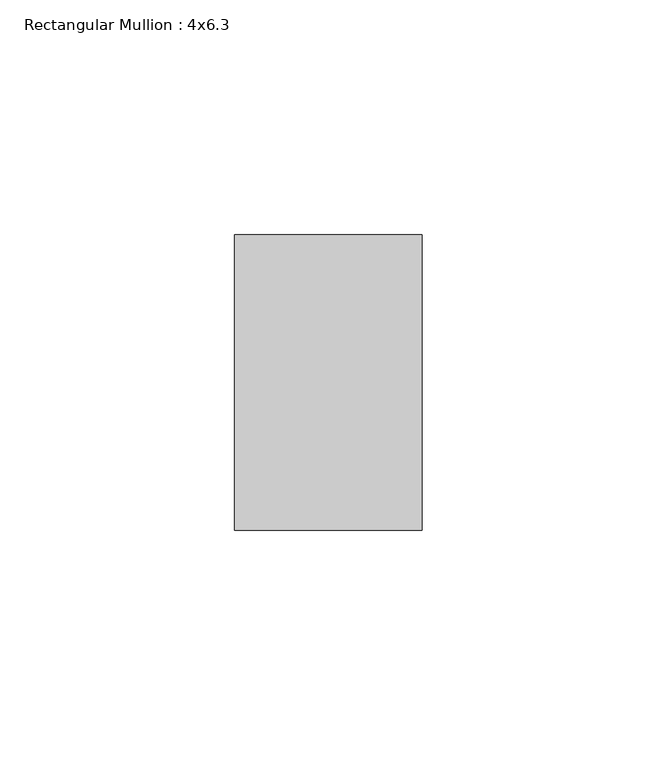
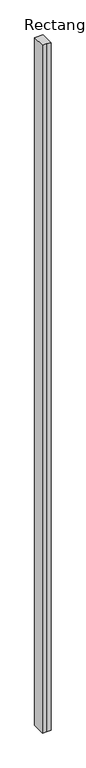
"""IFC4 building model written with IfcOpenShell, lengths in millimetres: member geometry, Rectangular Mullion : 4x6.3."""

from ifc_helpers import new_model, si_unit, frame, origin, place, context, project, spatial, polyline, outline, extrude, source, transform, mapped, element, save


def rectangular_mullion_4x6_3_23d2c0b6(model_context):
    return source(origin(), model_context, "Body", "SweptSolid", [
        extrude(outline(polyline([(-20.0, 20.0), (-20.0, 83.0), (20.0, 83.0), (20.0, 20.0), (0.0, 20.0), (-20.0, 20.0)])), frame((0.0, 0.0, -3426.2175229), z_axis=(0.0, 0.0, 1.0), x_axis=(1.0, 0.0, 0.0)), (0.0, 0.0, 1.0), 3426.2175229),
    ])


if __name__ == "__main__":
    model = new_model("IFC4")
    model_context = context("Model", 3, world=origin())
    ifc_project = project(units=[si_unit("LENGTHUNIT", "METRE", prefix="MILLI")], contexts=[model_context])
    site = spatial("IfcSite", under=ifc_project)
    building = spatial("IfcBuilding", under=site)
    placement = place(None, origin())
    rectangular_mullion_4x6_3_shape = rectangular_mullion_4x6_3_23d2c0b6(model_context)
    element("IfcMember", 1, ObjectType="Rectangular Mullion : 4x6.3", at=placement, inside=building, context=model_context, shape_type="MappedRepresentation", body=[
        mapped(rectangular_mullion_4x6_3_shape, transform((0.0, 0.0, 0.0), x_axis=(1.0, 0.0, 0.0), y_axis=(0.0, 1.0, 0.0), z_axis=(0.0, 0.0, 1.0))),
    ])
    save(model, "model.ifc")
